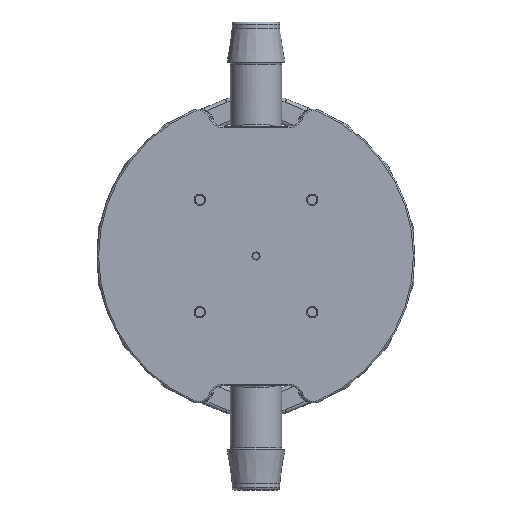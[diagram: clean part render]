
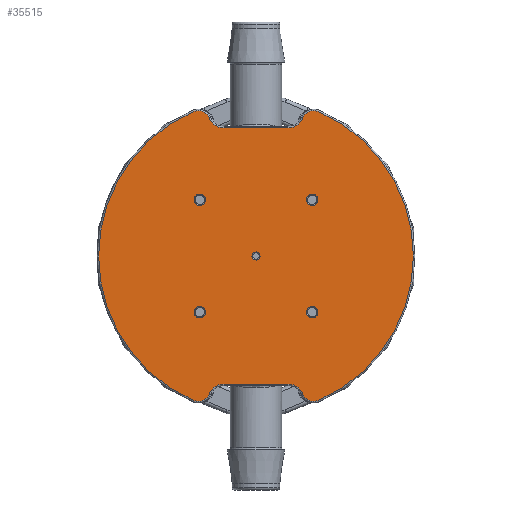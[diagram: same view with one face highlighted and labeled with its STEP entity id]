
A CAD part, front view. The second image highlights one B-rep face of the part: STEP entity #35515.
In plain terms, the highlighted planar face has unit normal (0, -1, 0).
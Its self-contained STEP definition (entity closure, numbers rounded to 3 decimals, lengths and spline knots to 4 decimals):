
#2171=LINE('',#57358,#5203);
#2172=LINE('',#57389,#5204);
#5203=VECTOR('',#42153,0.3937);
#5204=VECTOR('',#42196,0.3937);
#7877=FACE_BOUND('',#10411,.T.);
#7878=FACE_BOUND('',#10412,.T.);
#7879=FACE_BOUND('',#10413,.T.);
#7880=FACE_BOUND('',#10414,.T.);
#7881=FACE_BOUND('',#10415,.T.);
#8364=FACE_OUTER_BOUND('',#10410,.T.);
#10410=EDGE_LOOP('',(#24209,#24210,#24211,#24212,#24213,#24214,#24215,#24216,
#24217,#24218,#24219,#24220));
#10411=EDGE_LOOP('',(#24221));
#10412=EDGE_LOOP('',(#24222));
#10413=EDGE_LOOP('',(#24223));
#10414=EDGE_LOOP('',(#24224));
#10415=EDGE_LOOP('',(#24225));
#12473=CIRCLE('',#37774,0.33);
#12479=CIRCLE('',#37782,0.33);
#12482=CIRCLE('',#37786,0.245);
#12485=CIRCLE('',#37790,3.22);
#12488=CIRCLE('',#37794,0.245);
#12490=CIRCLE('',#37797,0.33);
#12493=CIRCLE('',#37802,0.33);
#12496=CIRCLE('',#37806,0.245);
#12499=CIRCLE('',#37810,3.22);
#12501=CIRCLE('',#37813,0.245);
#12508=CIRCLE('',#37825,0.0825);
#12509=CIRCLE('',#37826,0.118);
#12510=CIRCLE('',#37827,0.118);
#12511=CIRCLE('',#37828,0.118);
#12512=CIRCLE('',#37829,0.118);
#14534=VERTEX_POINT('',#57346);
#14535=VERTEX_POINT('',#57348);
#14537=VERTEX_POINT('',#57354);
#14539=VERTEX_POINT('',#57360);
#14541=VERTEX_POINT('',#57366);
#14543=VERTEX_POINT('',#57372);
#14545=VERTEX_POINT('',#57378);
#14546=VERTEX_POINT('',#57383);
#14547=VERTEX_POINT('',#57387);
#14548=VERTEX_POINT('',#57391);
#14549=VERTEX_POINT('',#57395);
#14551=VERTEX_POINT('',#57401);
#14560=VERTEX_POINT('',#57440);
#14561=VERTEX_POINT('',#57442);
#14562=VERTEX_POINT('',#57444);
#14563=VERTEX_POINT('',#57446);
#14564=VERTEX_POINT('',#57448);
#18180=EDGE_CURVE('',#14534,#14535,#12473,.T.);
#18185=EDGE_CURVE('',#14535,#14537,#2171,.T.);
#18188=EDGE_CURVE('',#14537,#14539,#12479,.T.);
#18191=EDGE_CURVE('',#14539,#14541,#12482,.T.);
#18194=EDGE_CURVE('',#14541,#14543,#12485,.T.);
#18197=EDGE_CURVE('',#14543,#14545,#12488,.T.);
#18199=EDGE_CURVE('',#14545,#14546,#12490,.T.);
#18201=EDGE_CURVE('',#14546,#14547,#2172,.T.);
#18203=EDGE_CURVE('',#14547,#14548,#12493,.T.);
#18206=EDGE_CURVE('',#14548,#14549,#12496,.T.);
#18209=EDGE_CURVE('',#14549,#14551,#12499,.T.);
#18211=EDGE_CURVE('',#14551,#14534,#12501,.T.);
#18224=EDGE_CURVE('',#14560,#14560,#12508,.T.);
#18225=EDGE_CURVE('',#14561,#14561,#12509,.T.);
#18226=EDGE_CURVE('',#14562,#14562,#12510,.T.);
#18227=EDGE_CURVE('',#14563,#14563,#12511,.T.);
#18228=EDGE_CURVE('',#14564,#14564,#12512,.T.);
#24209=ORIENTED_EDGE('',*,*,#18180,.F.);
#24210=ORIENTED_EDGE('',*,*,#18211,.F.);
#24211=ORIENTED_EDGE('',*,*,#18209,.F.);
#24212=ORIENTED_EDGE('',*,*,#18206,.F.);
#24213=ORIENTED_EDGE('',*,*,#18203,.F.);
#24214=ORIENTED_EDGE('',*,*,#18201,.F.);
#24215=ORIENTED_EDGE('',*,*,#18199,.F.);
#24216=ORIENTED_EDGE('',*,*,#18197,.F.);
#24217=ORIENTED_EDGE('',*,*,#18194,.F.);
#24218=ORIENTED_EDGE('',*,*,#18191,.F.);
#24219=ORIENTED_EDGE('',*,*,#18188,.F.);
#24220=ORIENTED_EDGE('',*,*,#18185,.F.);
#24221=ORIENTED_EDGE('',*,*,#18224,.F.);
#24222=ORIENTED_EDGE('',*,*,#18225,.F.);
#24223=ORIENTED_EDGE('',*,*,#18226,.F.);
#24224=ORIENTED_EDGE('',*,*,#18227,.F.);
#24225=ORIENTED_EDGE('',*,*,#18228,.F.);
#32202=PLANE('',#37824);
#35515=ADVANCED_FACE('',(#8364,#7877,#7878,#7879,#7880,#7881),#32202,.T.);
#37774=AXIS2_PLACEMENT_3D('',#57349,#42142,#42143);
#37782=AXIS2_PLACEMENT_3D('',#57364,#42160,#42161);
#37786=AXIS2_PLACEMENT_3D('',#57370,#42168,#42169);
#37790=AXIS2_PLACEMENT_3D('',#57376,#42176,#42177);
#37794=AXIS2_PLACEMENT_3D('',#57381,#42184,#42185);
#37797=AXIS2_PLACEMENT_3D('',#57385,#42190,#42191);
#37802=AXIS2_PLACEMENT_3D('',#57393,#42201,#42202);
#37806=AXIS2_PLACEMENT_3D('',#57399,#42209,#42210);
#37810=AXIS2_PLACEMENT_3D('',#57405,#42217,#42218);
#37813=AXIS2_PLACEMENT_3D('',#57408,#42223,#42224);
#37824=AXIS2_PLACEMENT_3D('',#57439,#42250,#42251);
#37825=AXIS2_PLACEMENT_3D('',#57441,#42252,#42253);
#37826=AXIS2_PLACEMENT_3D('',#57443,#42254,#42255);
#37827=AXIS2_PLACEMENT_3D('',#57445,#42256,#42257);
#37828=AXIS2_PLACEMENT_3D('',#57447,#42258,#42259);
#37829=AXIS2_PLACEMENT_3D('',#57449,#42260,#42261);
#42142=DIRECTION('center_axis',(0.,-1.,0.));
#42143=DIRECTION('ref_axis',(0.555,0.,0.832));
#42153=DIRECTION('',(-1.,0.,0.));
#42160=DIRECTION('center_axis',(0.,-1.,0.));
#42161=DIRECTION('ref_axis',(-0.555,0.,0.832));
#42168=DIRECTION('center_axis',(0.,1.,0.));
#42169=DIRECTION('ref_axis',(0.374,0.,-0.928));
#42176=DIRECTION('center_axis',(0.,1.,0.));
#42177=DIRECTION('ref_axis',(-1.,0.,0.));
#42184=DIRECTION('center_axis',(0.,1.,0.));
#42185=DIRECTION('ref_axis',(0.374,0.,0.928));
#42190=DIRECTION('center_axis',(0.,-1.,0.));
#42191=DIRECTION('ref_axis',(-0.555,0.,-0.832));
#42196=DIRECTION('',(1.,0.,0.));
#42201=DIRECTION('center_axis',(0.,-1.,0.));
#42202=DIRECTION('ref_axis',(0.555,0.,-0.832));
#42209=DIRECTION('center_axis',(0.,1.,0.));
#42210=DIRECTION('ref_axis',(-0.374,0.,0.928));
#42217=DIRECTION('center_axis',(0.,1.,0.));
#42218=DIRECTION('ref_axis',(1.,0.,0.));
#42223=DIRECTION('center_axis',(0.,1.,0.));
#42224=DIRECTION('ref_axis',(-0.374,0.,-0.928));
#42250=DIRECTION('center_axis',(0.,-1.,0.));
#42251=DIRECTION('ref_axis',(0.,0.,
-1.));
#42252=DIRECTION('center_axis',(0.,-1.,0.));
#42253=DIRECTION('ref_axis',(1.,0.,0.));
#42254=DIRECTION('center_axis',(0.,-1.,0.));
#42255=DIRECTION('ref_axis',(0.,0.,
-1.));
#42256=DIRECTION('center_axis',(0.,-1.,0.));
#42257=DIRECTION('ref_axis',(0.,0.,
-1.));
#42258=DIRECTION('center_axis',(0.,-1.,0.));
#42259=DIRECTION('ref_axis',(0.,0.,
-1.));
#42260=DIRECTION('center_axis',(0.,-1.,0.));
#42261=DIRECTION('ref_axis',(0.,0.,
-1.));
#57346=CARTESIAN_POINT('',(0.9589,0.,-2.8231));
#57348=CARTESIAN_POINT('',(0.6542,0.,-2.62));
#57349=CARTESIAN_POINT('Origin',(0.6542,0.,
-2.95));
#57354=CARTESIAN_POINT('',(-0.6542,0.,-2.62));
#57358=CARTESIAN_POINT('',(0.,0.,-2.62));
#57360=CARTESIAN_POINT('',(-0.9589,0.,-2.8231));
#57364=CARTESIAN_POINT('Origin',(-0.6542,0.,
-2.95));
#57366=CARTESIAN_POINT('',(-1.2826,0.,-2.9535));
#57370=CARTESIAN_POINT('Origin',(-1.185,0.,-2.7288));
#57372=CARTESIAN_POINT('',(-1.2826,0.,2.9535));
#57376=CARTESIAN_POINT('Origin',(0.,0.,
0.));
#57378=CARTESIAN_POINT('',(-0.9589,0.,2.8231));
#57381=CARTESIAN_POINT('Origin',(-1.185,0.,2.7288));
#57383=CARTESIAN_POINT('',(-0.6542,0.,2.62));
#57385=CARTESIAN_POINT('Origin',(-0.6542,0.,
2.95));
#57387=CARTESIAN_POINT('',(0.6542,0.,2.62));
#57389=CARTESIAN_POINT('',(0.,0.,
2.62));
#57391=CARTESIAN_POINT('',(0.9589,0.,2.8231));
#57393=CARTESIAN_POINT('Origin',(0.6542,0.,
2.95));
#57395=CARTESIAN_POINT('',(1.2826,0.,2.9535));
#57399=CARTESIAN_POINT('Origin',(1.185,0.,2.7288));
#57401=CARTESIAN_POINT('',(1.2826,0.,-2.9535));
#57405=CARTESIAN_POINT('Origin',(0.,0.,
0.));
#57408=CARTESIAN_POINT('Origin',(1.185,0.,-2.7288));
#57439=CARTESIAN_POINT('Origin',(0.,0.,0.));
#57440=CARTESIAN_POINT('',(-0.0825,0.,0.));
#57441=CARTESIAN_POINT('Origin',(0.,0.,
0.));
#57442=CARTESIAN_POINT('',(1.149,0.,-1.031));
#57443=CARTESIAN_POINT('Origin',(1.149,0.,-1.149));
#57444=CARTESIAN_POINT('',(-1.149,0.,1.267));
#57445=CARTESIAN_POINT('Origin',(-1.149,0.,
1.149));
#57446=CARTESIAN_POINT('',(1.149,0.,1.267));
#57447=CARTESIAN_POINT('Origin',(1.149,0.,
1.149));
#57448=CARTESIAN_POINT('',(-1.149,0.,-1.031));
#57449=CARTESIAN_POINT('Origin',(-1.149,0.,
-1.149));
